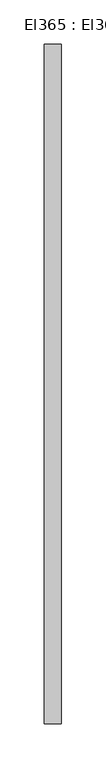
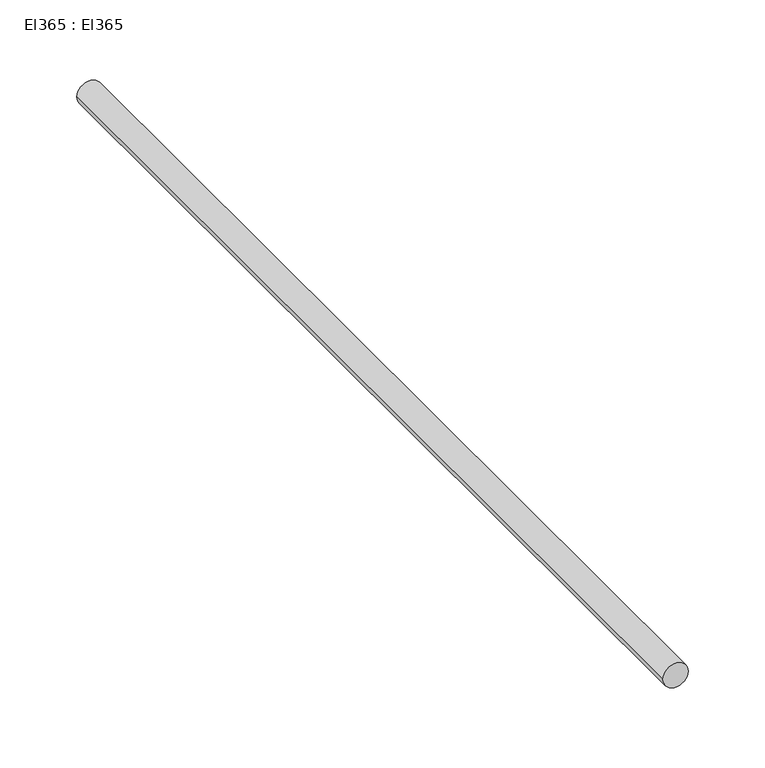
"""IFC4 building model written with IfcOpenShell, lengths in millimetres: cable carrier segment geometry, El365 : El365."""

from ifc_helpers import new_model, si_unit, point, frame, frame_2d, origin, place, context, project, spatial, circle_curve, trimmed, segment, composite_curve, outline, extrude, source, transform, mapped, element, save


def el365_el365_94bfad0a(model_context):
    return source(origin(), model_context, "Body", "SweptSolid", [
        extrude(outline(composite_curve([segment(trimmed(circle_curve(frame_2d((300.0, 32630.0)), 9.5), [point((300.0, 32620.5))], [point((300.0, 32639.5))], False, "CARTESIAN"), True, "CONTINUOUS"), segment(trimmed(circle_curve(frame_2d((300.0, 32630.0)), 9.5), [point((300.0, 32639.5))], [point((300.0, 32620.5))], False, "CARTESIAN"), True, "CONTINUOUS")], self_intersect=False)), frame((0.0, 16922.786, 0.0), z_axis=(0.0, 1.0, 0.0), x_axis=(0.0, 0.0, 1.0)), (0.0, 0.0, 1.0), 764.028),
    ])


if __name__ == "__main__":
    model = new_model("IFC4")
    model_context = context("Model", 3, world=origin())
    ifc_project = project(units=[si_unit("LENGTHUNIT", "METRE", prefix="MILLI")], contexts=[model_context])
    site = spatial("IfcSite", under=ifc_project)
    building = spatial("IfcBuilding", under=site)
    placement = place(None, origin())
    el365_el365_shape = el365_el365_94bfad0a(model_context)
    element("IfcCableCarrierSegment", 1, ObjectType="El365 : El365", at=placement, inside=building, context=model_context, shape_type="MappedRepresentation", body=[
        mapped(el365_el365_shape, transform((0.0, 0.0, 0.0), x_axis=(1.0, 0.0, 0.0), y_axis=(0.0, 1.0, 0.0), z_axis=(0.0, 0.0, 1.0))),
    ])
    save(model, "model.ifc")
